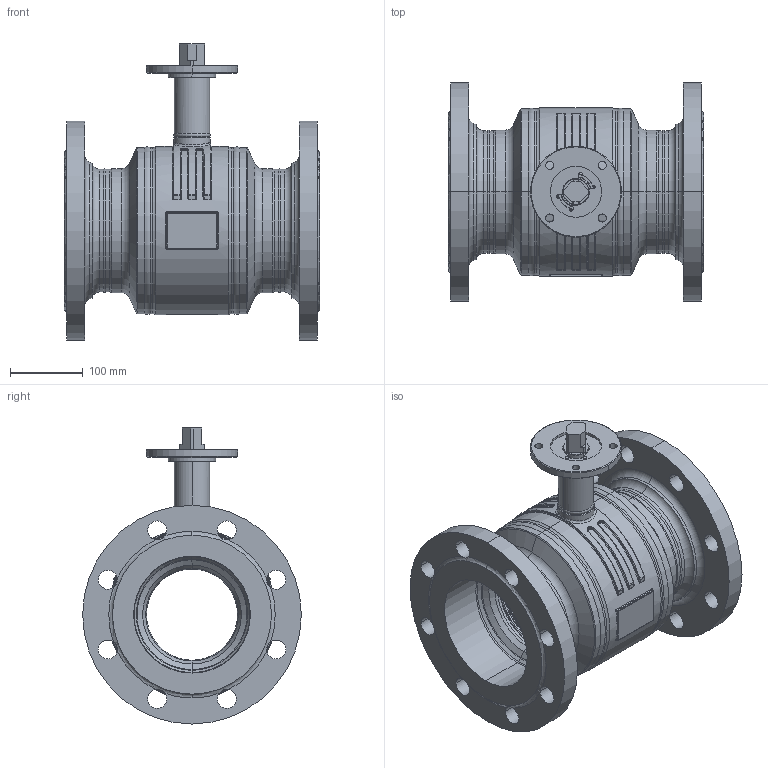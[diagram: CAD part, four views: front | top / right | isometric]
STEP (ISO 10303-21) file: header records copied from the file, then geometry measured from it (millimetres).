
FILE_DESCRIPTION((''),'2;1');
FILE_NAME('KHMO-F-R-H-150R125P04_SW0001','2025-04-23T10:11:36',('jeitlers'),('KLINGER'),'CREO PARAMETRIC BY PTC INC, 2023014','CREO PARAMETRIC BY PTC INC, 2023014','');
FILE_SCHEMA(('CONFIG_CONTROL_DESIGN'));
Length unit declared in the file: millimetre
Products named in the file (1): KHMO-F-R-H-150R125P04_SW0001
Bounding box: 350 x 300 x 406 mm (x, y, z)
Volume: 5918064.2 mm3; surface area: 1125154.2 mm2
Topology: 2 solids, 2 shells, 623 faces, 1529 edges, 908 vertices
Faces by surface type: cylinder 226, torus 140, plane 111, cone 86, bspline 52, sphere 8
Entity records: 31667 total; most frequent: CARTESIAN_POINT 16774, DIRECTION 3355, ORIENTED_EDGE 3042, EDGE_CURVE 1521, AXIS2_PLACEMENT_3D 1439, VERTEX_POINT 908, CIRCLE 868, EDGE_LOOP 689
